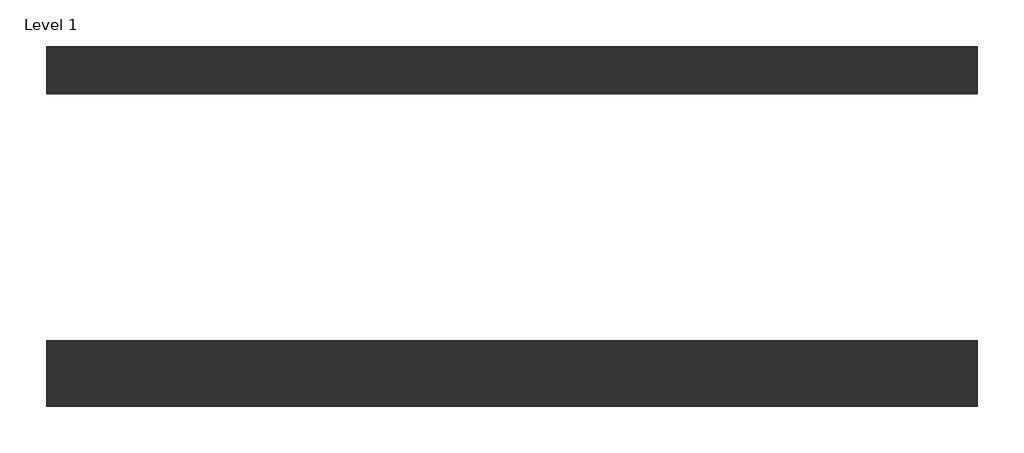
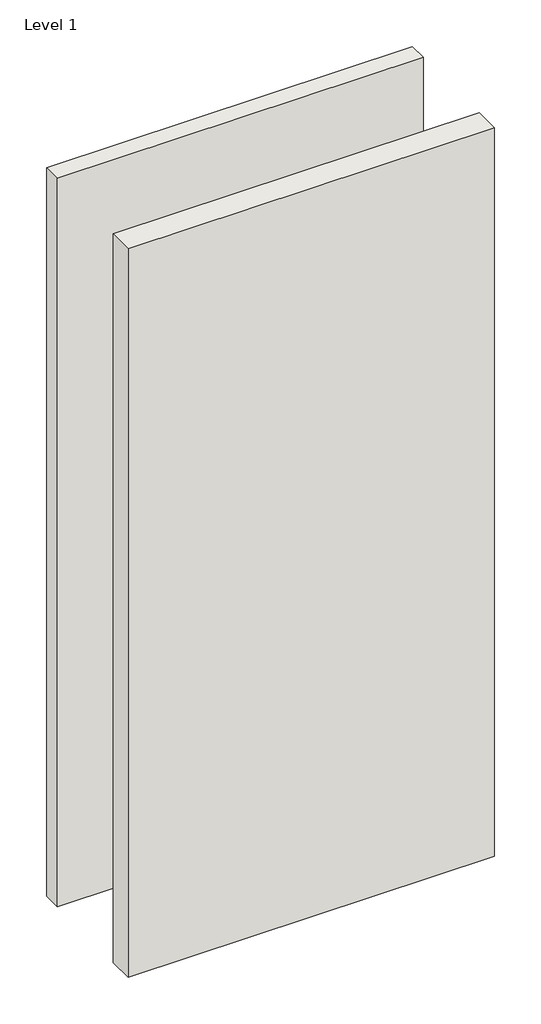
# One storey: 2 walls.
"""IFC4 building model written with IfcOpenShell, lengths in millimetres."""

from ifc_helpers import new_model, si_unit, origin, origin_with_axes, place, context, project, spatial, polyline, outline, extrude, element, save

model = new_model("IFC4")

# Units and contexts
model_context = context("Model", 3, world=origin())
ifc_project = project(units=[si_unit("LENGTHUNIT", "METRE", prefix="MILLI")], contexts=[model_context])

# Site, building, storey
site = spatial("IfcSite", under=ifc_project)
building = spatial("IfcBuilding", under=site)
storey = spatial("IfcBuildingStorey", under=building, Name="Level 1", Elevation=0.0)

# Walls
placement = place(None, origin())
element("IfcWall", 1, ObjectType="Interior-Steel Frame-Shaft Wall- CSR7675-134mm", at=placement, inside=storey, context=model_context, shape_type="SweptSolid", body=[
    extrude(outline(polyline([(-1040.0855966, -1349.9340008), (859.9144034, -1349.9340008), (859.9144034, -1483.9340008), (-1040.0855966, -1483.9340008), (-1040.0855966, -1349.9340008)])), origin_with_axes(), (0.0, 0.0, 1.0), 4000.0),
])
element("IfcWall", 2, ObjectType="Interior-Steel Frame-Shaft Wall- CSR7675-96mm", at=placement, inside=storey, context=model_context, shape_type="SweptSolid", body=[
    extrude(outline(polyline([(-1040.0855966, -749.9340008), (859.9144034, -749.9340008), (859.9144034, -845.9340008), (-1040.0855966, -845.9340008), (-1040.0855966, -749.9340008)])), origin_with_axes(), (0.0, 0.0, 1.0), 4000.0),
])

save(model, "model.ifc")
